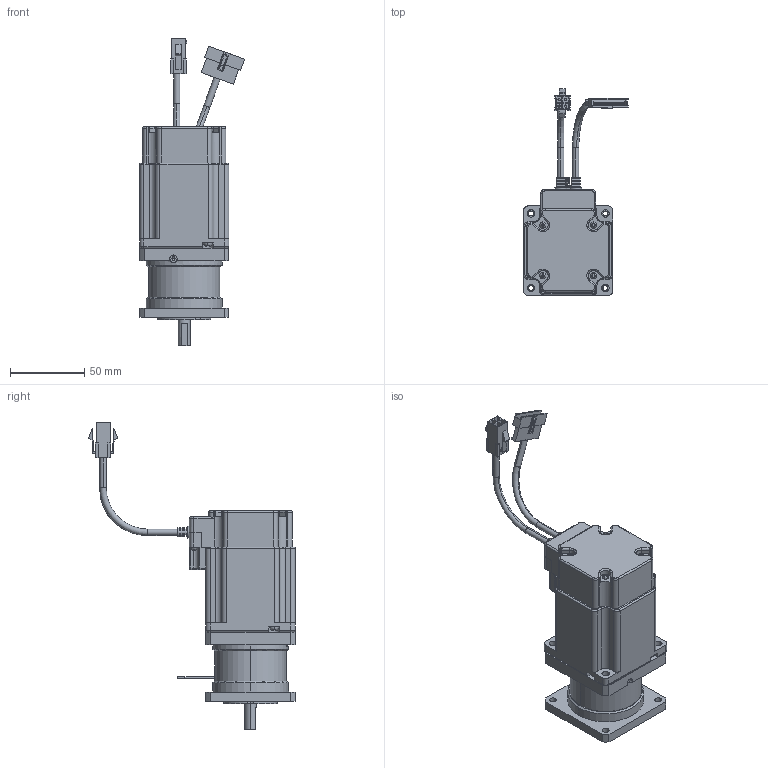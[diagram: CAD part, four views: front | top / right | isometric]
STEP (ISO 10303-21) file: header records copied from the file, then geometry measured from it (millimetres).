
FILE_DESCRIPTION (( 'STEP AP203' ), '1' );
FILE_NAME ('130416 Ezi-SERVO BK-60M.STEP', '2013-04-16T03:41:11', ( '' ), ( '' ), 'SwSTEP 2.0', 'SolidWorks 2012', '' );
FILE_SCHEMA (( 'CONFIG_CONTROL_DESIGN' ));
Length unit declared in the file: metre
Products named in the file (15): 130416 Ezi-SERVO BK-60M; BK60; MainEzM-60M-assembly-1; MainM3-screw10-1-1; MainM3-screw7-1-1; MainM3-screw9-1-1; MainM3-screw8-1-1; MainM3-screw12-1-1; MainM3-screw11-1-1; MainEzM-60M-1; MainEZSV_60_Encoder_Cover-1-1; MainEZSV_60_Cable_Cover-1-1; Main60_Encoder_Plate-1-1; MainEncoder_Cable_60-1-1; MainPower_Cable_60-1-1
Assembly tree (14 placements, depth 3):
  130416 Ezi-SERVO BK-60M
    MainEzM-60M-assembly-1
      MainPower_Cable_60-1-1
      MainEncoder_Cable_60-1-1
      Main60_Encoder_Plate-1-1
      MainEZSV_60_Cable_Cover-1-1
      MainEZSV_60_Encoder_Cover-1-1
      MainEzM-60M-1
      MainM3-screw11-1-1
      MainM3-screw12-1-1
      MainM3-screw8-1-1
      MainM3-screw9-1-1
      MainM3-screw7-1-1
      MainM3-screw10-1-1
    BK60
Bounding box: 70.49 x 138.64 x 206.65 mm (x, y, z)
Volume: 213018.8 mm3; surface area: 83550.9 mm2
Topology: 12 solids, 28 shells, 1135 faces, 3076 edges, 2005 vertices
Faces by surface type: plane 573, cylinder 450, bspline 54, cone 30, sphere 24, torus 4
Entity records: 42307 total; most frequent: CARTESIAN_POINT 12402, ORIENTED_EDGE 5899, DIRECTION 5872, EDGE_CURVE 3016, AXIS2_PLACEMENT_3D 2122, VERTEX_POINT 1985, LINE 1628, VECTOR 1628
